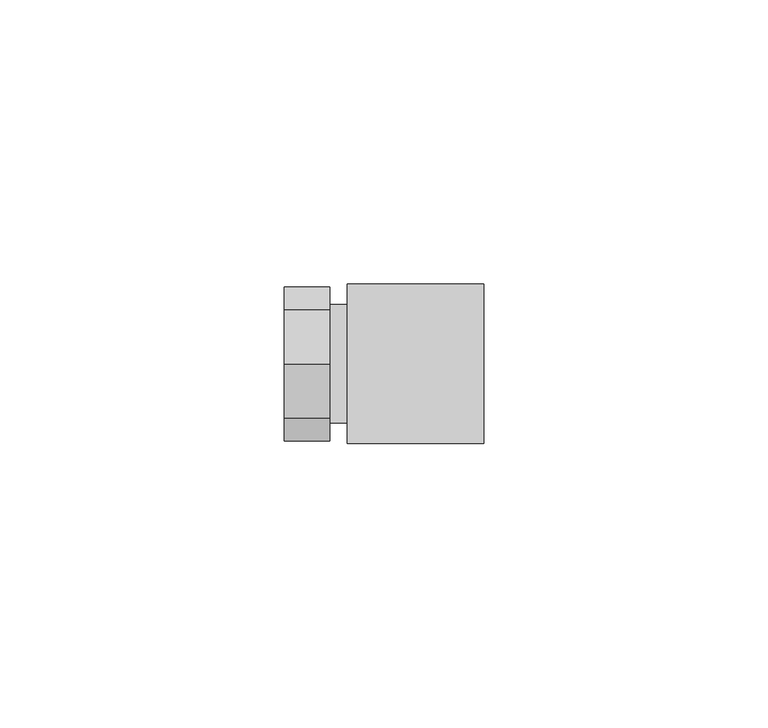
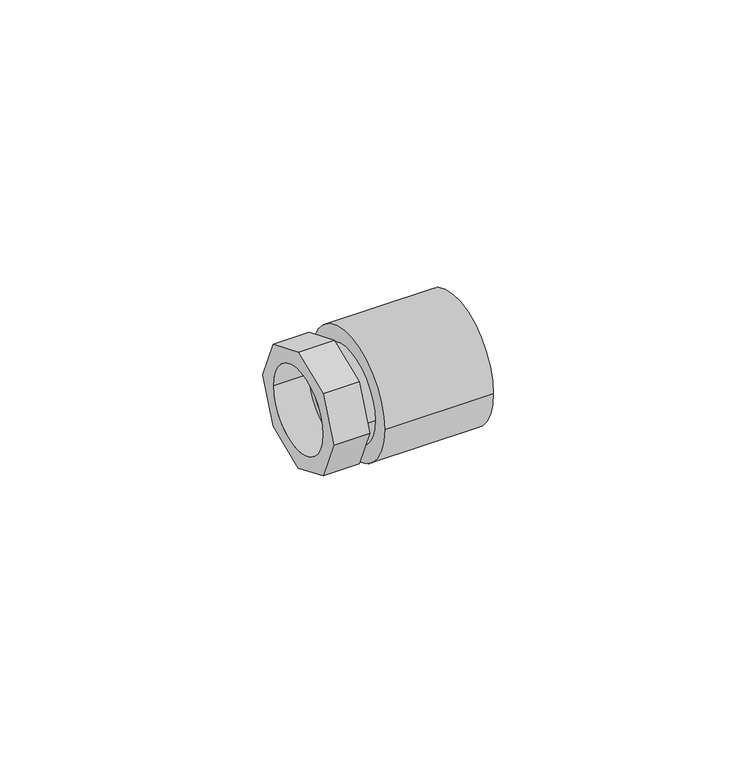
"""IFC4 building model written with IfcOpenShell, lengths in millimetres: pipe fitting geometry, 27_Муфта с накидной гайкой : Белый цвет."""

from ifc_helpers import new_model, si_unit, point, frame, origin, origin_2d, place, context, project, spatial, polyline, circle_curve, trimmed, segment, composite_curve, outline, extrude, source, transform, mapped, element, save


def pipe_fitting_49972ef6(model_context):
    return source(origin(), model_context, "Body", "SweptSolid", [
        extrude(outline(composite_curve([segment(trimmed(circle_curve(origin_2d(), 10.4), [point((-10.4, 0.0))], [point((10.4, 0.0))], False, "CARTESIAN"), True, "CONTINUOUS"), segment(trimmed(circle_curve(origin_2d(), 10.4), [point((10.4, 0.0))], [point((-10.4, 0.0))], False, "CARTESIAN"), True, "CONTINUOUS")], self_intersect=False), holes=[composite_curve([segment(trimmed(circle_curve(origin_2d(), 8.4), [point((-8.4, 0.0))], [point((8.4, 0.0))], True, "CARTESIAN"), True, "CONTINUOUS"), segment(trimmed(circle_curve(origin_2d(), 8.4), [point((8.4, 0.0))], [point((-8.4, 0.0))], True, "CARTESIAN"), True, "CONTINUOUS")], self_intersect=False)]), frame((0.0, 0.0, 0.0), z_axis=(1.0, 0.0, 0.0), x_axis=(0.0, 1.0, 0.0)), (0.0, 0.0, 1.0), 3.0),
        extrude(outline(polyline([(-9.5670858, 9.5670858), (0.0, 13.5299025), (9.5670858, 9.5670858), (13.5299025, 0.0), (9.5670858, -9.5670858), (0.0, -13.5299025), (-9.5670858, -9.5670858), (-13.5299025, 0.0), (-9.5670858, 9.5670858)]), holes=[composite_curve([segment(trimmed(circle_curve(origin_2d(), 9.4), [point((-9.4, 0.0))], [point((9.4, 0.0))], True, "CARTESIAN"), True, "CONTINUOUS"), segment(trimmed(circle_curve(origin_2d(), 9.4), [point((9.4, 0.0))], [point((-9.4, 0.0))], True, "CARTESIAN"), True, "CONTINUOUS")], self_intersect=False)]), frame((-8.0, 0.0, 0.0), z_axis=(1.0, 0.0, 0.0), x_axis=(0.0, 1.0, 0.0)), (0.0, 0.0, 1.0), 8.0),
        extrude(outline(composite_curve([segment(trimmed(circle_curve(origin_2d(), 14.0), [point((-14.0, 0.0))], [point((14.0, 0.0))], False, "CARTESIAN"), True, "CONTINUOUS"), segment(trimmed(circle_curve(origin_2d(), 14.0), [point((14.0, 0.0))], [point((-14.0, 0.0))], False, "CARTESIAN"), True, "CONTINUOUS")], self_intersect=False), holes=[composite_curve([segment(trimmed(circle_curve(origin_2d(), 10.0), [point((-10.0, 0.0))], [point((10.0, 0.0))], True, "CARTESIAN"), True, "CONTINUOUS"), segment(trimmed(circle_curve(origin_2d(), 10.0), [point((10.0, 0.0))], [point((-10.0, 0.0))], True, "CARTESIAN"), True, "CONTINUOUS")], self_intersect=False)]), frame((3.0, 0.0, 0.0), z_axis=(1.0, 0.0, 0.0), x_axis=(0.0, 1.0, 0.0)), (0.0, 0.0, 1.0), 24.0),
    ])


if __name__ == "__main__":
    model = new_model("IFC4")
    model_context = context("Model", 3, world=origin())
    ifc_project = project(units=[si_unit("LENGTHUNIT", "METRE", prefix="MILLI")], contexts=[model_context])
    site = spatial("IfcSite", under=ifc_project)
    building = spatial("IfcBuilding", under=site)
    placement = place(None, origin())
    pipe_fitting_shape = pipe_fitting_49972ef6(model_context)
    element("IfcPipeFitting", 1, ObjectType="27_Муфта с накидной гайкой : Белый цвет", at=placement, inside=building, context=model_context, shape_type="MappedRepresentation", body=[
        mapped(pipe_fitting_shape, transform((0.0, 0.0, 0.0), x_axis=(1.0, 0.0, 0.0), y_axis=(0.0, 1.0, 0.0), z_axis=(0.0, 0.0, 1.0))),
    ])
    save(model, "model.ifc")
